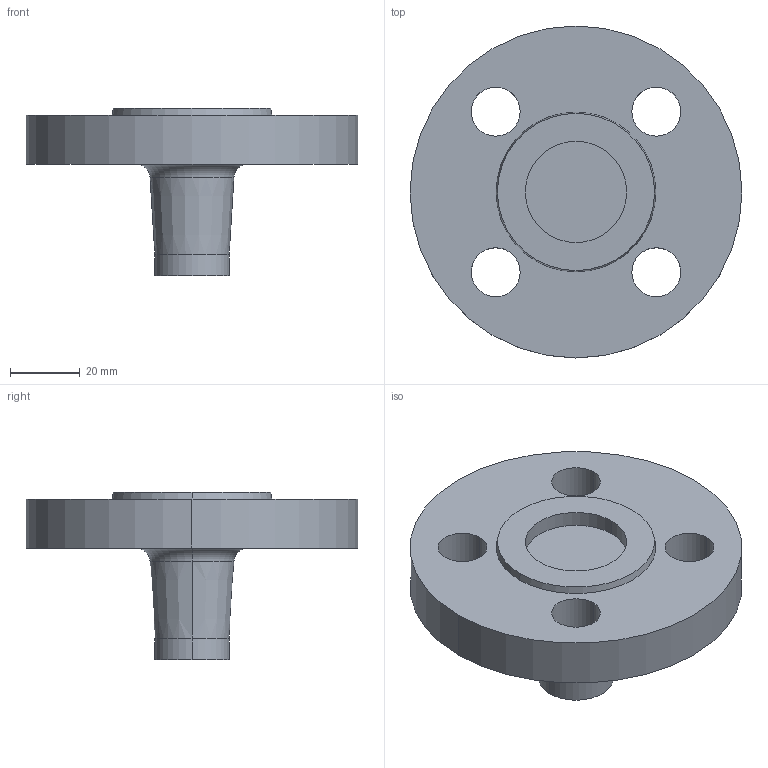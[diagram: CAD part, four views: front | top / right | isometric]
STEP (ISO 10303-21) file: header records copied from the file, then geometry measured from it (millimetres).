
FILE_DESCRIPTION (( 'STEP AP214' ), '1' );
FILE_NAME ('PN40 DN15 Type 21(ii) - Type G Face.STEP', '2018-12-29T14:22:38', ( '' ), ( '' ), 'SwSTEP 2.0', 'SolidWorks 2019', '' );
FILE_SCHEMA (( 'AUTOMOTIVE_DESIGN' ));
Length unit declared in the file: millimetre
Products named in the file (1): PN40 DN15 Type 21(ii) - Type G Face
Bounding box: 95 x 95 x 48 mm (x, y, z)
Volume: 103962 mm3; surface area: 22287.4 mm2
Topology: 1 solids, 1 shells, 27 faces, 60 edges, 38 vertices
Faces by surface type: cylinder 14, plane 5, torus 4, cone 4
Entity records: 818 total; most frequent: DIRECTION 158, CARTESIAN_POINT 126, ORIENTED_EDGE 120, AXIS2_PLACEMENT_3D 70, EDGE_CURVE 60, CIRCLE 42, VERTEX_POINT 38, EDGE_LOOP 38
